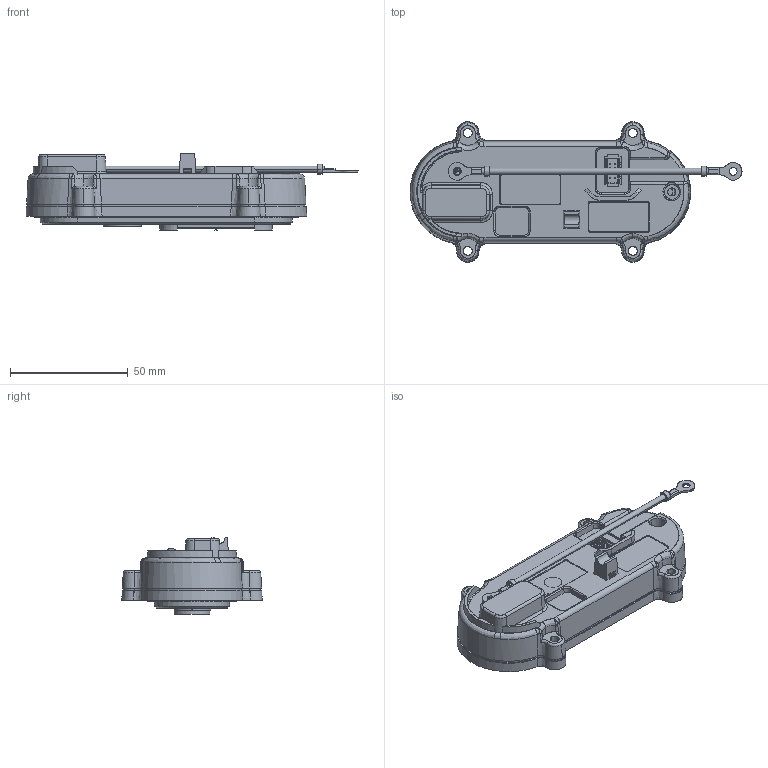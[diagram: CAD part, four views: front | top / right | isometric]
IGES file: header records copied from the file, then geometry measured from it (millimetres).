
Start section: SolidWorks IGES file using analytic representation for surfaces
Global section: file name: C:\Users\rayc\Desktop\Nav-Bar Audio Module (horz).IGS; native system: SolidWorks 2016; preprocessor: SolidWorks 2016; author: RayC; date: 170110.111627; units: millimetre
Bounding box: 140.75 x 59.5 x 32.3 mm (x, y, z)
Surface area: 31483 mm2 (no closed solid volume)
Topology: 0 solids, 0 shells, 658 faces, 8948 edges, 8940 vertices
Faces by surface type: bspline 409, revolution 249
